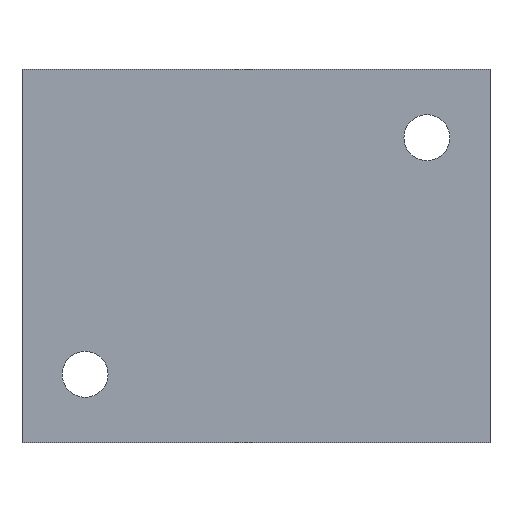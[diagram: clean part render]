
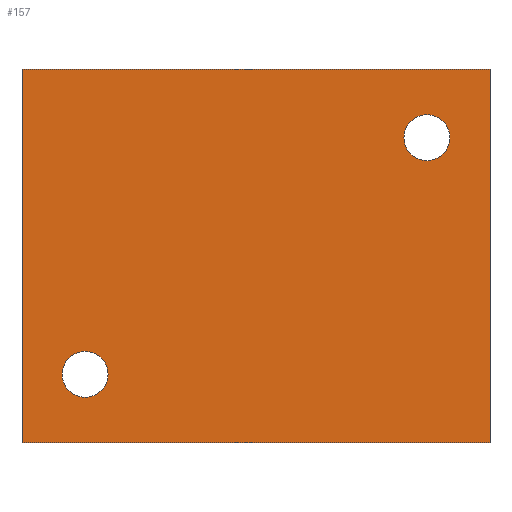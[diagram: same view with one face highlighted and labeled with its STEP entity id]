
A CAD part, front view. The second image highlights one B-rep face of the part: STEP entity #157.
In plain terms, the highlighted planar face has unit normal (0, -1, 0).
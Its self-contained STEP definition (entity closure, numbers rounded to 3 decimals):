
#18 = DIRECTION ( 'NONE',  ( 0., 0., -1. ) ) ;
#19 = FACE_BOUND ( 'NONE', #1199, .T. ) ;
#53 = ORIENTED_EDGE ( 'NONE', *, *, #1502, .T. ) ;
#70 = CARTESIAN_POINT ( 'NONE',  ( -65., -69., -45. ) ) ;
#88 = CARTESIAN_POINT ( 'NONE',  ( -65., -69., -36.25 ) ) ;
#110 = DIRECTION ( 'NONE',  ( 0., 0., -1. ) ) ;
#116 = DIRECTION ( 'NONE',  ( 0., 0., 1. ) ) ;
#131 = EDGE_CURVE ( 'NONE', #840, #1487, #1223, .T. ) ;
#157 = ADVANCED_FACE ( 'NONE', ( #234, #19, #620 ), #526, .F. ) ;
#186 = AXIS2_PLACEMENT_3D ( 'NONE', #355, #499, #116 ) ;
#189 = DIRECTION ( 'NONE',  ( 0., 0., -1. ) ) ;
#234 = FACE_BOUND ( 'NONE', #1439, .T. ) ;
#248 = VERTEX_POINT ( 'NONE', #1499 ) ;
#264 = DIRECTION ( 'NONE',  ( 0., 0., -1. ) ) ;
#273 = AXIS2_PLACEMENT_3D ( 'NONE', #891, #897, #517 ) ;
#314 = EDGE_CURVE ( 'NONE', #1356, #708, #1285, .T. ) ;
#355 = CARTESIAN_POINT ( 'NONE',  ( -89., -69., 71. ) ) ;
#398 = CARTESIAN_POINT ( 'NONE',  ( 89., -69., -71. ) ) ;
#400 = CARTESIAN_POINT ( 'NONE',  ( 89., -69., 71. ) ) ;
#419 = DIRECTION ( 'NONE',  ( 1., 0., 0. ) ) ;
#442 = EDGE_CURVE ( 'NONE', #1242, #1405, #1518, .T. ) ;
#460 = VECTOR ( 'NONE', #264, 1000. ) ;
#468 = CARTESIAN_POINT ( 'NONE',  ( 65., -69., 45. ) ) ;
#499 = DIRECTION ( 'NONE',  ( 0., 1., 0. ) ) ;
#502 = CARTESIAN_POINT ( 'NONE',  ( -65., -69., -53.75 ) ) ;
#503 = CIRCLE ( 'NONE', #273, 8.75 ) ;
#517 = DIRECTION ( 'NONE',  ( 0., 0., -1. ) ) ;
#522 = CARTESIAN_POINT ( 'NONE',  ( 89., -69., 71. ) ) ;
#526 = PLANE ( 'NONE',  #186 ) ;
#540 = ORIENTED_EDGE ( 'NONE', *, *, #314, .F. ) ;
#572 = ORIENTED_EDGE ( 'NONE', *, *, #804, .F. ) ;
#620 = FACE_OUTER_BOUND ( 'NONE', #819, .T. ) ;
#637 = VECTOR ( 'NONE', #18, 1000. ) ;
#662 = VECTOR ( 'NONE', #419, 1000. ) ;
#669 = CARTESIAN_POINT ( 'NONE',  ( -89., -69., -71. ) ) ;
#708 = VERTEX_POINT ( 'NONE', #88 ) ;
#713 = DIRECTION ( 'NONE',  ( 0., -1., 0. ) ) ;
#719 = DIRECTION ( 'NONE',  ( 0., 0., -1. ) ) ;
#732 = CARTESIAN_POINT ( 'NONE',  ( -89., -69., -71. ) ) ;
#762 = CARTESIAN_POINT ( 'NONE',  ( 65., -69., 53.75 ) ) ;
#774 = AXIS2_PLACEMENT_3D ( 'NONE', #70, #1262, #189 ) ;
#790 = LINE ( 'NONE', #1261, #662 ) ;
#796 = AXIS2_PLACEMENT_3D ( 'NONE', #468, #713, #719 ) ;
#804 = EDGE_CURVE ( 'NONE', #1435, #1487, #1213, .T. ) ;
#819 = EDGE_LOOP ( 'NONE', ( #1280, #572, #1015, #53 ) ) ;
#840 = VERTEX_POINT ( 'NONE', #669 ) ;
#891 = CARTESIAN_POINT ( 'NONE',  ( 65., -69., 45. ) ) ;
#897 = DIRECTION ( 'NONE',  ( 0., -1., 0. ) ) ;
#921 = EDGE_CURVE ( 'NONE', #1405, #1242, #503, .T. ) ;
#969 = CARTESIAN_POINT ( 'NONE',  ( -89., -69., 71. ) ) ;
#1001 = ORIENTED_EDGE ( 'NONE', *, *, #1117, .F. ) ;
#1015 = ORIENTED_EDGE ( 'NONE', *, *, #1061, .F. ) ;
#1060 = CARTESIAN_POINT ( 'NONE',  ( -65., -69., -45. ) ) ;
#1061 = EDGE_CURVE ( 'NONE', #248, #1435, #790, .T. ) ;
#1064 = ORIENTED_EDGE ( 'NONE', *, *, #921, .F. ) ;
#1066 = CIRCLE ( 'NONE', #1271, 8.75 ) ;
#1117 = EDGE_CURVE ( 'NONE', #708, #1356, #1066, .T. ) ;
#1177 = DIRECTION ( 'NONE',  ( 0., -1., 0. ) ) ;
#1199 = EDGE_LOOP ( 'NONE', ( #540, #1001 ) ) ;
#1213 = LINE ( 'NONE', #400, #637 ) ;
#1223 = LINE ( 'NONE', #732, #1498 ) ;
#1242 = VERTEX_POINT ( 'NONE', #1443 ) ;
#1261 = CARTESIAN_POINT ( 'NONE',  ( -89., -69., 71. ) ) ;
#1262 = DIRECTION ( 'NONE',  ( 0., -1., 0. ) ) ;
#1271 = AXIS2_PLACEMENT_3D ( 'NONE', #1060, #1177, #110 ) ;
#1280 = ORIENTED_EDGE ( 'NONE', *, *, #131, .T. ) ;
#1285 = CIRCLE ( 'NONE', #774, 8.75 ) ;
#1303 = LINE ( 'NONE', #969, #460 ) ;
#1306 = DIRECTION ( 'NONE',  ( 1., 0., 0. ) ) ;
#1356 = VERTEX_POINT ( 'NONE', #502 ) ;
#1405 = VERTEX_POINT ( 'NONE', #762 ) ;
#1435 = VERTEX_POINT ( 'NONE', #522 ) ;
#1439 = EDGE_LOOP ( 'NONE', ( #1513, #1064 ) ) ;
#1443 = CARTESIAN_POINT ( 'NONE',  ( 65., -69., 36.25 ) ) ;
#1487 = VERTEX_POINT ( 'NONE', #398 ) ;
#1498 = VECTOR ( 'NONE', #1306, 1000. ) ;
#1499 = CARTESIAN_POINT ( 'NONE',  ( -89., -69., 71. ) ) ;
#1502 = EDGE_CURVE ( 'NONE', #248, #840, #1303, .T. ) ;
#1513 = ORIENTED_EDGE ( 'NONE', *, *, #442, .F. ) ;
#1518 = CIRCLE ( 'NONE', #796, 8.75 ) ;
